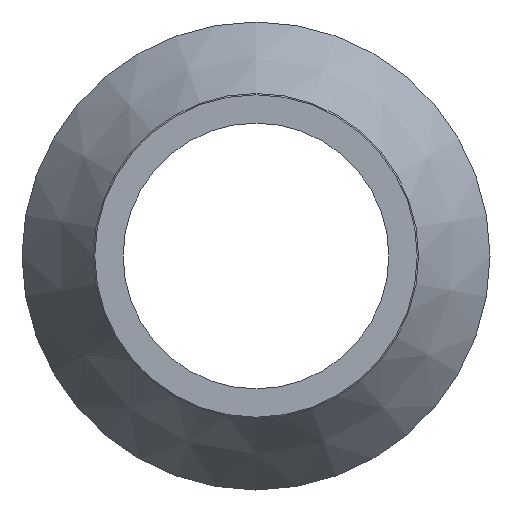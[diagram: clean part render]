
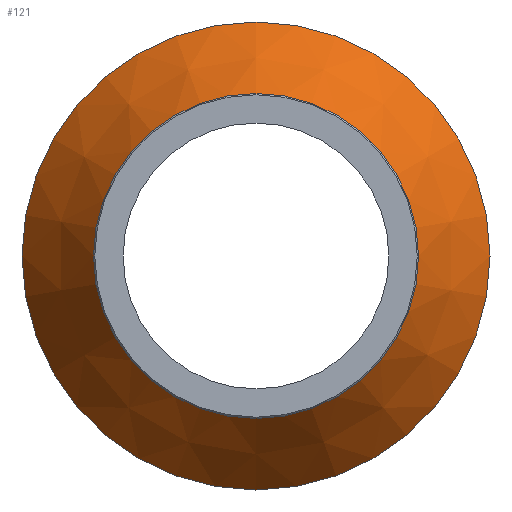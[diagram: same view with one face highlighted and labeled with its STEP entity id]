
A CAD part, left-side view. The second image highlights one B-rep face of the part: STEP entity #121.
In plain terms, the highlighted conical face has half-angle 34.509 degrees and reference radius 90 mm.
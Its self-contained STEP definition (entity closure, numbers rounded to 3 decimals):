
#22=CONICAL_SURFACE('',#146,90.,0.602);
#28=ORIENTED_EDGE('',*,*,#48,.F.);
#29=ORIENTED_EDGE('',*,*,#47,.T.);
#47=EDGE_CURVE('',#57,#57,#67,.T.);
#48=EDGE_CURVE('',#58,#58,#68,.T.);
#57=VERTEX_POINT('',#210);
#58=VERTEX_POINT('',#213);
#67=CIRCLE('',#145,90.);
#68=CIRCLE('',#147,62.5);
#78=EDGE_LOOP('',(#28));
#79=EDGE_LOOP('',(#29));
#98=FACE_BOUND('',#78,.T.);
#99=FACE_BOUND('',#79,.T.);
#121=ADVANCED_FACE('',(#98,#99),#22,.T.);
#145=AXIS2_PLACEMENT_3D('',#209,#169,#170);
#146=AXIS2_PLACEMENT_3D('',#211,#171,#172);
#147=AXIS2_PLACEMENT_3D('',#212,#173,#174);
#169=DIRECTION('',(-1.,0.,0.));
#170=DIRECTION('',(0.,0.,1.));
#171=DIRECTION('',(1.,0.,0.));
#172=DIRECTION('',(0.,0.,-1.));
#173=DIRECTION('',(-1.,0.,0.));
#174=DIRECTION('',(0.,0.,1.));
#209=CARTESIAN_POINT('',(20.,0.,0.));
#210=CARTESIAN_POINT('',(20.,0.,90.));
#211=CARTESIAN_POINT('',(20.,0.,0.));
#212=CARTESIAN_POINT('',(-20.,0.,0.));
#213=CARTESIAN_POINT('',(-20.,0.,62.5));
